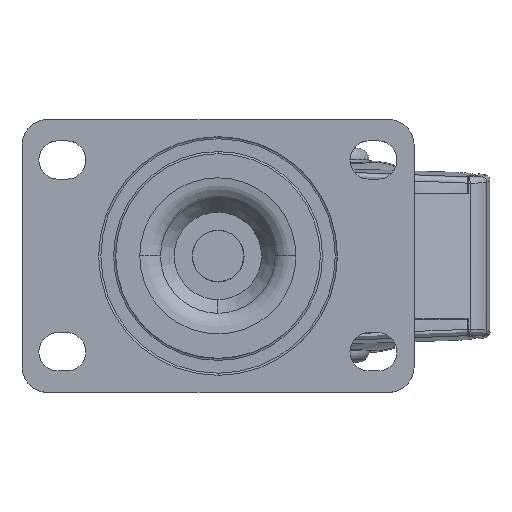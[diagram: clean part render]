
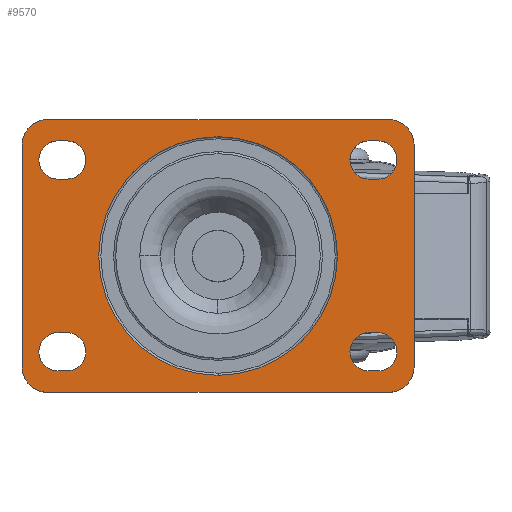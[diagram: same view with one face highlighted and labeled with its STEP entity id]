
A CAD part, top view. The second image highlights one B-rep face of the part: STEP entity #9570.
In plain terms, the highlighted planar face has unit normal (0, 0, 1).
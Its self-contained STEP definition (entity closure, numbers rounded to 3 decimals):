
#1471=PLANE('',#41115);
#1857=FACE_BOUND('',#13999,.T.);
#1858=FACE_BOUND('',#14000,.T.);
#1859=FACE_BOUND('',#14001,.T.);
#1860=FACE_BOUND('',#14002,.T.);
#1861=FACE_BOUND('',#14003,.T.);
#1862=FACE_BOUND('',#14004,.T.);
#4007=LINE('',#81843,#6735);
#4008=LINE('',#81847,#6736);
#4009=LINE('',#81853,#6737);
#4010=LINE('',#81857,#6738);
#4011=LINE('',#81861,#6739);
#4012=LINE('',#81867,#6740);
#4013=LINE('',#81871,#6741);
#4014=LINE('',#81877,#6742);
#4015=LINE('',#81879,#6743);
#4016=LINE('',#81884,#6744);
#4017=LINE('',#81888,#6745);
#4018=LINE('',#81892,#6746);
#6735=VECTOR('',#48196,1.);
#6736=VECTOR('',#48199,1.);
#6737=VECTOR('',#48204,1.);
#6738=VECTOR('',#48207,1.);
#6739=VECTOR('',#48210,1.);
#6740=VECTOR('',#48215,1.);
#6741=VECTOR('',#48218,1.);
#6742=VECTOR('',#48223,1.);
#6743=VECTOR('',#48226,1.);
#6744=VECTOR('',#48229,1.);
#6745=VECTOR('',#48232,1.);
#6746=VECTOR('',#48235,1.);
#9570=ADVANCED_FACE('',(#1857,#1858,#1859,#1860,#1861,#1862),#1471,.F.);
#13999=EDGE_LOOP('',(#24886,#24887,#24888,#24889,#24890));
#14000=EDGE_LOOP('',(#24891,#24892,#24893,#24894,#24895));
#14001=EDGE_LOOP('',(#24896,#24897,#24898,#24899,#24900));
#14002=EDGE_LOOP('',(#24901,#24902,#24903,#24904,#24905));
#14003=EDGE_LOOP('',(#24906,#24907));
#14004=EDGE_LOOP('',(#24908,#24909,#24910,#24911,#24912,#24913,#24914,#24915));
#24886=ORIENTED_EDGE('',*,*,#36555,.T.);
#24887=ORIENTED_EDGE('',*,*,#36556,.T.);
#24888=ORIENTED_EDGE('',*,*,#36557,.T.);
#24889=ORIENTED_EDGE('',*,*,#36558,.T.);
#24890=ORIENTED_EDGE('',*,*,#36559,.F.);
#24891=ORIENTED_EDGE('',*,*,#36560,.T.);
#24892=ORIENTED_EDGE('',*,*,#36561,.T.);
#24893=ORIENTED_EDGE('',*,*,#36562,.F.);
#24894=ORIENTED_EDGE('',*,*,#36563,.T.);
#24895=ORIENTED_EDGE('',*,*,#36564,.T.);
#24896=ORIENTED_EDGE('',*,*,#36565,.T.);
#24897=ORIENTED_EDGE('',*,*,#36566,.F.);
#24898=ORIENTED_EDGE('',*,*,#36567,.T.);
#24899=ORIENTED_EDGE('',*,*,#36568,.T.);
#24900=ORIENTED_EDGE('',*,*,#36569,.T.);
#24901=ORIENTED_EDGE('',*,*,#36570,.T.);
#24902=ORIENTED_EDGE('',*,*,#36571,.T.);
#24903=ORIENTED_EDGE('',*,*,#36572,.T.);
#24904=ORIENTED_EDGE('',*,*,#36573,.T.);
#24905=ORIENTED_EDGE('',*,*,#36574,.F.);
#24906=ORIENTED_EDGE('',*,*,#36575,.F.);
#24907=ORIENTED_EDGE('',*,*,#36549,.F.);
#24908=ORIENTED_EDGE('',*,*,#36576,.F.);
#24909=ORIENTED_EDGE('',*,*,#36577,.F.);
#24910=ORIENTED_EDGE('',*,*,#36578,.T.);
#24911=ORIENTED_EDGE('',*,*,#36579,.F.);
#24912=ORIENTED_EDGE('',*,*,#36580,.T.);
#24913=ORIENTED_EDGE('',*,*,#36581,.F.);
#24914=ORIENTED_EDGE('',*,*,#36582,.F.);
#24915=ORIENTED_EDGE('',*,*,#36583,.F.);
#31233=VERTEX_POINT('',#81825);
#31234=VERTEX_POINT('',#81827);
#31238=VERTEX_POINT('',#81839);
#31239=VERTEX_POINT('',#81840);
#31240=VERTEX_POINT('',#81842);
#31241=VERTEX_POINT('',#81844);
#31242=VERTEX_POINT('',#81846);
#31243=VERTEX_POINT('',#81849);
#31244=VERTEX_POINT('',#81850);
#31245=VERTEX_POINT('',#81852);
#31246=VERTEX_POINT('',#81854);
#31247=VERTEX_POINT('',#81856);
#31248=VERTEX_POINT('',#81859);
#31249=VERTEX_POINT('',#81860);
#31250=VERTEX_POINT('',#81862);
#31251=VERTEX_POINT('',#81864);
#31252=VERTEX_POINT('',#81866);
#31253=VERTEX_POINT('',#81869);
#31254=VERTEX_POINT('',#81870);
#31255=VERTEX_POINT('',#81872);
#31256=VERTEX_POINT('',#81874);
#31257=VERTEX_POINT('',#81876);
#31258=VERTEX_POINT('',#81880);
#31259=VERTEX_POINT('',#81881);
#31260=VERTEX_POINT('',#81883);
#31261=VERTEX_POINT('',#81885);
#31262=VERTEX_POINT('',#81887);
#31263=VERTEX_POINT('',#81889);
#31264=VERTEX_POINT('',#81891);
#31265=VERTEX_POINT('',#81893);
#36549=EDGE_CURVE('',#31233,#31234,#38795,.T.);
#36555=EDGE_CURVE('',#31238,#31239,#38800,.T.);
#36556=EDGE_CURVE('',#31239,#31240,#38801,.T.);
#36557=EDGE_CURVE('',#31240,#31241,#4007,.T.);
#36558=EDGE_CURVE('',#31241,#31242,#38802,.T.);
#36559=EDGE_CURVE('',#31238,#31242,#4008,.T.);
#36560=EDGE_CURVE('',#31243,#31244,#38803,.T.);
#36561=EDGE_CURVE('',#31244,#31245,#38804,.T.);
#36562=EDGE_CURVE('',#31246,#31245,#4009,.T.);
#36563=EDGE_CURVE('',#31246,#31247,#38805,.T.);
#36564=EDGE_CURVE('',#31247,#31243,#4010,.T.);
#36565=EDGE_CURVE('',#31248,#31249,#38806,.T.);
#36566=EDGE_CURVE('',#31250,#31249,#4011,.T.);
#36567=EDGE_CURVE('',#31250,#31251,#38807,.T.);
#36568=EDGE_CURVE('',#31251,#31252,#38808,.T.);
#36569=EDGE_CURVE('',#31252,#31248,#4012,.T.);
#36570=EDGE_CURVE('',#31253,#31254,#38809,.T.);
#36571=EDGE_CURVE('',#31254,#31255,#4013,.T.);
#36572=EDGE_CURVE('',#31255,#31256,#38810,.T.);
#36573=EDGE_CURVE('',#31256,#31257,#38811,.T.);
#36574=EDGE_CURVE('',#31253,#31257,#4014,.T.);
#36575=EDGE_CURVE('',#31234,#31233,#38812,.T.);
#36576=EDGE_CURVE('',#31258,#31259,#4015,.T.);
#36577=EDGE_CURVE('',#31260,#31258,#38813,.T.);
#36578=EDGE_CURVE('',#31260,#31261,#4016,.T.);
#36579=EDGE_CURVE('',#31262,#31261,#38814,.T.);
#36580=EDGE_CURVE('',#31262,#31263,#4017,.T.);
#36581=EDGE_CURVE('',#31264,#31263,#38815,.T.);
#36582=EDGE_CURVE('',#31265,#31264,#4018,.T.);
#36583=EDGE_CURVE('',#31259,#31265,#38816,.T.);
#38795=CIRCLE('',#41091,28.);
#38800=CIRCLE('',#41098,4.5);
#38801=CIRCLE('',#41099,4.5);
#38802=CIRCLE('',#41100,4.5);
#38803=CIRCLE('',#41101,4.5);
#38804=CIRCLE('',#41102,4.5);
#38805=CIRCLE('',#41103,4.5);
#38806=CIRCLE('',#41104,4.5);
#38807=CIRCLE('',#41105,4.5);
#38808=CIRCLE('',#41106,4.5);
#38809=CIRCLE('',#41107,4.5);
#38810=CIRCLE('',#41108,4.5);
#38811=CIRCLE('',#41109,4.5);
#38812=CIRCLE('',#41110,28.);
#38813=CIRCLE('',#41111,6.);
#38814=CIRCLE('',#41112,6.);
#38815=CIRCLE('',#41113,6.);
#38816=CIRCLE('',#41114,6.);
#41091=AXIS2_PLACEMENT_3D('',#81826,#48177,#48178);
#41098=AXIS2_PLACEMENT_3D('',#81838,#48192,#48193);
#41099=AXIS2_PLACEMENT_3D('',#81841,#48194,#48195);
#41100=AXIS2_PLACEMENT_3D('',#81845,#48197,#48198);
#41101=AXIS2_PLACEMENT_3D('',#81848,#48200,#48201);
#41102=AXIS2_PLACEMENT_3D('',#81851,#48202,#48203);
#41103=AXIS2_PLACEMENT_3D('',#81855,#48205,#48206);
#41104=AXIS2_PLACEMENT_3D('',#81858,#48208,#48209);
#41105=AXIS2_PLACEMENT_3D('',#81863,#48211,#48212);
#41106=AXIS2_PLACEMENT_3D('',#81865,#48213,#48214);
#41107=AXIS2_PLACEMENT_3D('',#81868,#48216,#48217);
#41108=AXIS2_PLACEMENT_3D('',#81873,#48219,#48220);
#41109=AXIS2_PLACEMENT_3D('',#81875,#48221,#48222);
#41110=AXIS2_PLACEMENT_3D('',#81878,#48224,#48225);
#41111=AXIS2_PLACEMENT_3D('',#81882,#48227,#48228);
#41112=AXIS2_PLACEMENT_3D('',#81886,#48230,#48231);
#41113=AXIS2_PLACEMENT_3D('',#81890,#48233,#48234);
#41114=AXIS2_PLACEMENT_3D('',#81894,#48236,#48237);
#41115=AXIS2_PLACEMENT_3D('',#81895,#48238,#48239);
#48177=DIRECTION('',(0.,0.,1.));
#48178=DIRECTION('',(-1.,0.,0.));
#48192=DIRECTION('',(0.,0.,-1.));
#48193=DIRECTION('',(-1.,0.,0.));
#48194=DIRECTION('',(0.,0.,-1.));
#48195=DIRECTION('',(-1.,0.,0.));
#48196=DIRECTION('',(1.,0.,0.));
#48197=DIRECTION('',(0.,0.,-1.));
#48198=DIRECTION('',(-1.,0.,0.));
#48199=DIRECTION('',(1.,0.,0.));
#48200=DIRECTION('',(0.,0.,-1.));
#48201=DIRECTION('',(-1.,0.,0.));
#48202=DIRECTION('',(0.,0.,-1.));
#48203=DIRECTION('',(-1.,0.,0.));
#48204=DIRECTION('',(-1.,0.,0.));
#48205=DIRECTION('',(0.,0.,-1.));
#48206=DIRECTION('',(-1.,0.,0.));
#48207=DIRECTION('',(-1.,0.,0.));
#48208=DIRECTION('',(0.,0.,-1.));
#48209=DIRECTION('',(-1.,0.,0.));
#48210=DIRECTION('',(1.,0.,0.));
#48211=DIRECTION('',(0.,0.,-1.));
#48212=DIRECTION('',(-1.,0.,0.));
#48213=DIRECTION('',(0.,0.,-1.));
#48214=DIRECTION('',(-1.,0.,0.));
#48215=DIRECTION('',(1.,0.,0.));
#48216=DIRECTION('',(0.,0.,-1.));
#48217=DIRECTION('',(-1.,0.,0.));
#48218=DIRECTION('',(-1.,0.,0.));
#48219=DIRECTION('',(0.,0.,-1.));
#48220=DIRECTION('',(-1.,0.,0.));
#48221=DIRECTION('',(0.,0.,-1.));
#48222=DIRECTION('',(-1.,0.,0.));
#48223=DIRECTION('',(-1.,0.,0.));
#48224=DIRECTION('',(0.,0.,1.));
#48225=DIRECTION('',(-1.,0.,0.));
#48226=DIRECTION('',(-1.,0.,0.));
#48227=DIRECTION('',(0.,0.,-1.));
#48228=DIRECTION('',(-1.,0.,0.));
#48229=DIRECTION('',(0.,1.,0.));
#48230=DIRECTION('',(0.,0.,-1.));
#48231=DIRECTION('',(-1.,0.,0.));
#48232=DIRECTION('',(-1.,0.,0.));
#48233=DIRECTION('',(0.,0.,-1.));
#48234=DIRECTION('',(-1.,0.,0.));
#48235=DIRECTION('',(0.,1.,0.));
#48236=DIRECTION('',(0.,0.,-1.));
#48237=DIRECTION('',(-1.,0.,0.));
#48238=DIRECTION('',(0.,0.,-1.));
#48239=DIRECTION('',(1.,0.,0.));
#81825=CARTESIAN_POINT('',(28.,0.,0.));
#81826=CARTESIAN_POINT('',(0.,0.,0.));
#81827=CARTESIAN_POINT('',(-28.,0.,0.));
#81838=CARTESIAN_POINT('',(35.458,-22.478,0.));
#81839=CARTESIAN_POINT('',(35.458,-26.978,0.));
#81840=CARTESIAN_POINT('',(30.958,-22.478,0.));
#81841=CARTESIAN_POINT('',(35.458,-22.478,0.));
#81842=CARTESIAN_POINT('',(35.458,-17.978,0.));
#81843=CARTESIAN_POINT('',(37.958,-17.978,0.));
#81844=CARTESIAN_POINT('',(37.458,-17.978,0.));
#81845=CARTESIAN_POINT('',(37.458,-22.478,0.));
#81846=CARTESIAN_POINT('',(37.458,-26.978,0.));
#81847=CARTESIAN_POINT('',(37.958,-26.978,0.));
#81848=CARTESIAN_POINT('',(35.458,22.522,0.));
#81849=CARTESIAN_POINT('',(35.458,18.022,0.));
#81850=CARTESIAN_POINT('',(30.958,22.522,0.));
#81851=CARTESIAN_POINT('',(35.458,22.522,0.));
#81852=CARTESIAN_POINT('',(35.458,27.022,0.));
#81853=CARTESIAN_POINT('',(37.958,27.022,0.));
#81854=CARTESIAN_POINT('',(37.458,27.022,0.));
#81855=CARTESIAN_POINT('',(37.458,22.522,0.));
#81856=CARTESIAN_POINT('',(37.458,18.022,0.));
#81857=CARTESIAN_POINT('',(37.958,18.022,0.));
#81858=CARTESIAN_POINT('',(-35.542,-22.478,0.));
#81859=CARTESIAN_POINT('',(-35.542,-17.978,0.));
#81860=CARTESIAN_POINT('',(-35.542,-26.978,0.));
#81861=CARTESIAN_POINT('',(-38.042,-26.978,0.));
#81862=CARTESIAN_POINT('',(-37.542,-26.978,0.));
#81863=CARTESIAN_POINT('',(-37.542,-22.478,0.));
#81864=CARTESIAN_POINT('',(-42.042,-22.478,0.));
#81865=CARTESIAN_POINT('',(-37.542,-22.478,0.));
#81866=CARTESIAN_POINT('',(-37.542,-17.978,0.));
#81867=CARTESIAN_POINT('',(-38.042,-17.978,0.));
#81868=CARTESIAN_POINT('',(-35.542,22.522,0.));
#81869=CARTESIAN_POINT('',(-35.542,27.022,0.));
#81870=CARTESIAN_POINT('',(-35.542,18.022,0.));
#81871=CARTESIAN_POINT('',(-38.042,18.022,0.));
#81872=CARTESIAN_POINT('',(-37.542,18.022,0.));
#81873=CARTESIAN_POINT('',(-37.542,22.522,0.));
#81874=CARTESIAN_POINT('',(-42.042,22.522,0.));
#81875=CARTESIAN_POINT('',(-37.542,22.522,0.));
#81876=CARTESIAN_POINT('',(-37.542,27.022,0.));
#81877=CARTESIAN_POINT('',(-38.042,27.022,0.));
#81878=CARTESIAN_POINT('',(0.,0.,0.));
#81879=CARTESIAN_POINT('',(-32.,-32.,0.));
#81880=CARTESIAN_POINT('',(40.,-32.,0.));
#81881=CARTESIAN_POINT('',(-40.,-32.,0.));
#81882=CARTESIAN_POINT('',(40.,-26.,0.));
#81883=CARTESIAN_POINT('',(46.,-26.,0.));
#81884=CARTESIAN_POINT('',(46.,-28.,0.));
#81885=CARTESIAN_POINT('',(46.,26.,0.));
#81886=CARTESIAN_POINT('',(40.,26.,0.));
#81887=CARTESIAN_POINT('',(40.,32.,0.));
#81888=CARTESIAN_POINT('',(-32.,32.,0.));
#81889=CARTESIAN_POINT('',(-40.,32.,0.));
#81890=CARTESIAN_POINT('',(-40.,26.,0.));
#81891=CARTESIAN_POINT('',(-46.,26.,0.));
#81892=CARTESIAN_POINT('',(-46.,-28.,0.));
#81893=CARTESIAN_POINT('',(-46.,-26.,0.));
#81894=CARTESIAN_POINT('',(-40.,-26.,0.));
#81895=CARTESIAN_POINT('',(-32.,-28.,0.));
